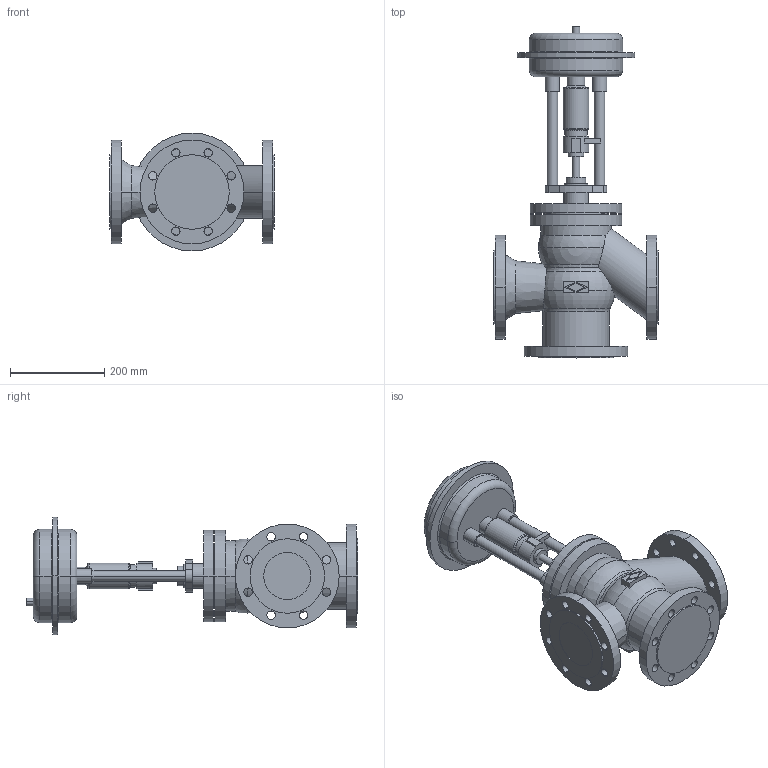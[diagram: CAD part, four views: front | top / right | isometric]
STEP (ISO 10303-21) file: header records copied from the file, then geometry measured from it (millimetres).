
FILE_DESCRIPTION(('OneSpaceDesigner STEP Export'),'2;1');
FILE_NAME('c000000409.stp','2006-09-13T12:33:56',(''),(''),'OneSpace Designer STEP processor for AP214 (Solid Model)','OneSpace Designer 13.20A 18-Aug-2005 (C) CoCreate Software GmbH','');
FILE_SCHEMA(('AUTOMOTIVE_DESIGN { 1 0 10303 214 1 1 1 1 }'));
Length unit declared in the file: millimetre
Products named in the file (2): 1; 2
Bounding box: 350 x 704.5 x 250 mm (x, y, z)
Volume: 13831782.8 mm3; surface area: 762830.4 mm2
Topology: 2 solids, 2 shells, 225 faces, 563 edges, 366 vertices
Faces by surface type: cylinder 114, plane 73, torus 26, cone 8, sphere 4
Entity records: 6009 total; most frequent: CARTESIAN_POINT 1160, ORIENTED_EDGE 1118, DIRECTION 848, EDGE_CURVE 559, VERTEX_POINT 366, AXIS2_PLACEMENT_3D 316, EDGE_LOOP 301, FACE_OUTER_BOUND 225
